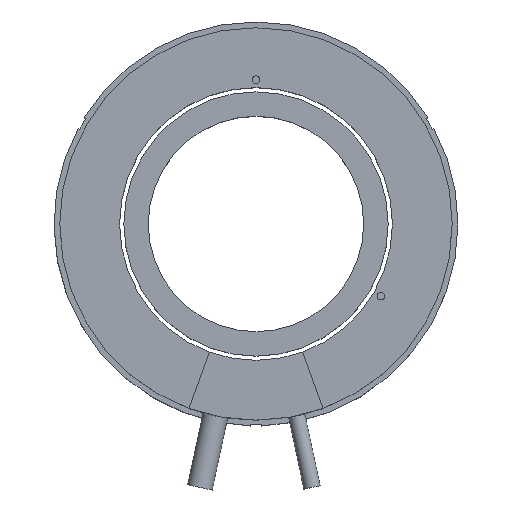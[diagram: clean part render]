
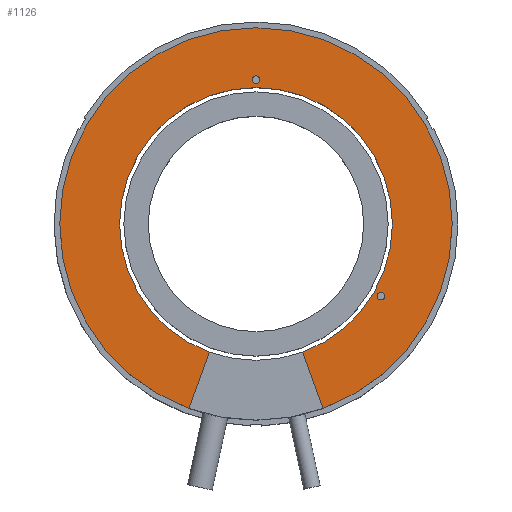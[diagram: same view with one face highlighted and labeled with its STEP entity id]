
A CAD part, top view. The second image highlights one B-rep face of the part: STEP entity #1126.
In plain terms, the highlighted planar face has unit normal (0, 0, 1).
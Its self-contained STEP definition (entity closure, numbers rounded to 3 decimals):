
#29 = ORIENTED_EDGE ( 'NONE', *, *, #387, .T. ) ;
#53 = DIRECTION ( 'NONE',  ( 1., 0., 0. ) ) ;
#61 = CIRCLE ( 'NONE', #185, 35.45 ) ;
#66 = CARTESIAN_POINT ( 'NONE',  ( 1., 37.5, 25. ) ) ;
#80 = CARTESIAN_POINT ( 'NONE',  ( 0., 0., 25. ) ) ;
#87 = AXIS2_PLACEMENT_3D ( 'NONE', #284, #1099, #1207 ) ;
#109 = VECTOR ( 'NONE', #1037, 1000. ) ;
#116 = FACE_BOUND ( 'NONE', #430, .T. ) ;
#122 = CIRCLE ( 'NONE', #467, 35.45 ) ;
#127 = EDGE_LOOP ( 'NONE', ( #404, #1021, #29, #930, #372, #364, #386, #1190 ) ) ;
#140 = VERTEX_POINT ( 'NONE', #1399 ) ;
#149 = CARTESIAN_POINT ( 'NONE',  ( -12.125, -33.312, 25. ) ) ;
#150 = DIRECTION ( 'NONE',  ( 1., 0., 0. ) ) ;
#157 = CARTESIAN_POINT ( 'NONE',  ( 31.476, -18.75, 25. ) ) ;
#159 = DIRECTION ( 'NONE',  ( 1., 0., 0. ) ) ;
#185 = AXIS2_PLACEMENT_3D ( 'NONE', #1370, #802, #689 ) ;
#189 = EDGE_CURVE ( 'NONE', #625, #1329, #244, .T. ) ;
#205 = EDGE_CURVE ( 'NONE', #516, #334, #947, .T. ) ;
#244 = CIRCLE ( 'NONE', #586, 51. ) ;
#273 = ORIENTED_EDGE ( 'NONE', *, *, #409, .F. ) ;
#284 = CARTESIAN_POINT ( 'NONE',  ( 0., 0., 25. ) ) ;
#288 = DIRECTION ( 'NONE',  ( 1., 0., 0. ) ) ;
#327 = EDGE_CURVE ( 'NONE', #686, #140, #444, .T. ) ;
#334 = VERTEX_POINT ( 'NONE', #975 ) ;
#350 = CARTESIAN_POINT ( 'NONE',  ( 35.45, 0., 25. ) ) ;
#360 = CARTESIAN_POINT ( 'NONE',  ( 12.125, -33.312, 25. ) ) ;
#362 = EDGE_CURVE ( 'NONE', #784, #948, #122, .T. ) ;
#364 = ORIENTED_EDGE ( 'NONE', *, *, #932, .F. ) ;
#368 = DIRECTION ( 'NONE',  ( 0., 0., 1. ) ) ;
#372 = ORIENTED_EDGE ( 'NONE', *, *, #1294, .F. ) ;
#386 = ORIENTED_EDGE ( 'NONE', *, *, #362, .F. ) ;
#387 = EDGE_CURVE ( 'NONE', #140, #625, #928, .T. ) ;
#404 = ORIENTED_EDGE ( 'NONE', *, *, #1055, .F. ) ;
#409 = EDGE_CURVE ( 'NONE', #1300, #912, #969, .T. ) ;
#430 = EDGE_LOOP ( 'NONE', ( #1448, #273 ) ) ;
#433 = EDGE_LOOP ( 'NONE', ( #570, #1485 ) ) ;
#436 = DIRECTION ( 'NONE',  ( 1., 0., 0. ) ) ;
#444 = CIRCLE ( 'NONE', #1416, 51. ) ;
#457 = CARTESIAN_POINT ( 'NONE',  ( 12.125, -33.312, 25. ) ) ;
#460 = CARTESIAN_POINT ( 'NONE',  ( 32.476, -18.75, 25. ) ) ;
#462 = VERTEX_POINT ( 'NONE', #544 ) ;
#467 = AXIS2_PLACEMENT_3D ( 'NONE', #1100, #990, #53 ) ;
#480 = DIRECTION ( 'NONE',  ( 1., 0., 0. ) ) ;
#487 = LINE ( 'NONE', #149, #798 ) ;
#516 = VERTEX_POINT ( 'NONE', #66 ) ;
#524 = CARTESIAN_POINT ( 'NONE',  ( 0., 37.5, 25. ) ) ;
#544 = CARTESIAN_POINT ( 'NONE',  ( -12.125, -33.312, 25. ) ) ;
#548 = DIRECTION ( 'NONE',  ( 1., 0., 0. ) ) ;
#551 = CARTESIAN_POINT ( 'NONE',  ( 35.45, 0., 25. ) ) ;
#570 = ORIENTED_EDGE ( 'NONE', *, *, #205, .F. ) ;
#586 = AXIS2_PLACEMENT_3D ( 'NONE', #1193, #1493, #708 ) ;
#601 = EDGE_CURVE ( 'NONE', #912, #1300, #1097, .T. ) ;
#618 = DIRECTION ( 'NONE',  ( 0., 0., 1. ) ) ;
#625 = VERTEX_POINT ( 'NONE', #1179 ) ;
#645 = CARTESIAN_POINT ( 'NONE',  ( -17.443, -47.924, 25. ) ) ;
#669 = CARTESIAN_POINT ( 'NONE',  ( 32.476, -18.75, 25. ) ) ;
#686 = VERTEX_POINT ( 'NONE', #847 ) ;
#689 = DIRECTION ( 'NONE',  ( 1., 0., 0. ) ) ;
#703 = DIRECTION ( 'NONE',  ( 1., 0., 0. ) ) ;
#708 = DIRECTION ( 'NONE',  ( 1., 0., 0. ) ) ;
#734 = DIRECTION ( 'NONE',  ( 0., 0., 1. ) ) ;
#768 = CIRCLE ( 'NONE', #983, 1. ) ;
#784 = VERTEX_POINT ( 'NONE', #551 ) ;
#798 = VECTOR ( 'NONE', #1070, 1000. ) ;
#802 = DIRECTION ( 'NONE',  ( 0., 0., 1. ) ) ;
#809 = AXIS2_PLACEMENT_3D ( 'NONE', #80, #1006, #548 ) ;
#818 = CIRCLE ( 'NONE', #87, 35.45 ) ;
#847 = CARTESIAN_POINT ( 'NONE',  ( 17.443, -47.924, 25. ) ) ;
#876 = DIRECTION ( 'NONE',  ( 0., 0., 1. ) ) ;
#912 = VERTEX_POINT ( 'NONE', #1254 ) ;
#923 = DIRECTION ( 'NONE',  ( 0., 0., 1. ) ) ;
#928 = CIRCLE ( 'NONE', #809, 51. ) ;
#930 = ORIENTED_EDGE ( 'NONE', *, *, #189, .T. ) ;
#932 = EDGE_CURVE ( 'NONE', #948, #462, #61, .T. ) ;
#933 = FACE_OUTER_BOUND ( 'NONE', #127, .T. ) ;
#947 = CIRCLE ( 'NONE', #1095, 1. ) ;
#948 = VERTEX_POINT ( 'NONE', #1248 ) ;
#969 = CIRCLE ( 'NONE', #1165, 1. ) ;
#975 = CARTESIAN_POINT ( 'NONE',  ( -1., 37.5, 25. ) ) ;
#983 = AXIS2_PLACEMENT_3D ( 'NONE', #524, #1409, #288 ) ;
#990 = DIRECTION ( 'NONE',  ( 0., 0., 1. ) ) ;
#1006 = DIRECTION ( 'NONE',  ( 0., 0., 1. ) ) ;
#1021 = ORIENTED_EDGE ( 'NONE', *, *, #327, .T. ) ;
#1037 = DIRECTION ( 'NONE',  ( -0.342, 0.94, 0. ) ) ;
#1043 = FACE_BOUND ( 'NONE', #433, .T. ) ;
#1055 = EDGE_CURVE ( 'NONE', #686, #1143, #1270, .T. ) ;
#1056 = PLANE ( 'NONE',  #1132 ) ;
#1070 = DIRECTION ( 'NONE',  ( -0.342, -0.94, 0. ) ) ;
#1095 = AXIS2_PLACEMENT_3D ( 'NONE', #1171, #734, #150 ) ;
#1097 = CIRCLE ( 'NONE', #1166, 1. ) ;
#1099 = DIRECTION ( 'NONE',  ( 0., 0., 1. ) ) ;
#1100 = CARTESIAN_POINT ( 'NONE',  ( 0., 0., 25. ) ) ;
#1126 = ADVANCED_FACE ( 'NONE', ( #116, #1043, #933 ), #1056, .T. ) ;
#1132 = AXIS2_PLACEMENT_3D ( 'NONE', #350, #368, #480 ) ;
#1143 = VERTEX_POINT ( 'NONE', #457 ) ;
#1165 = AXIS2_PLACEMENT_3D ( 'NONE', #669, #876, #436 ) ;
#1166 = AXIS2_PLACEMENT_3D ( 'NONE', #460, #923, #703 ) ;
#1171 = CARTESIAN_POINT ( 'NONE',  ( 0., 37.5, 25. ) ) ;
#1179 = CARTESIAN_POINT ( 'NONE',  ( -51., 0., 25. ) ) ;
#1190 = ORIENTED_EDGE ( 'NONE', *, *, #1231, .F. ) ;
#1193 = CARTESIAN_POINT ( 'NONE',  ( 0., 0., 25. ) ) ;
#1207 = DIRECTION ( 'NONE',  ( 1., 0., 0. ) ) ;
#1230 = CARTESIAN_POINT ( 'NONE',  ( 0., 0., 25. ) ) ;
#1231 = EDGE_CURVE ( 'NONE', #1143, #784, #818, .T. ) ;
#1248 = CARTESIAN_POINT ( 'NONE',  ( -35.45, 0., 25. ) ) ;
#1254 = CARTESIAN_POINT ( 'NONE',  ( 33.476, -18.75, 25. ) ) ;
#1270 = LINE ( 'NONE', #360, #109 ) ;
#1294 = EDGE_CURVE ( 'NONE', #462, #1329, #487, .T. ) ;
#1300 = VERTEX_POINT ( 'NONE', #157 ) ;
#1329 = VERTEX_POINT ( 'NONE', #645 ) ;
#1344 = EDGE_CURVE ( 'NONE', #334, #516, #768, .T. ) ;
#1370 = CARTESIAN_POINT ( 'NONE',  ( 0., 0., 25. ) ) ;
#1399 = CARTESIAN_POINT ( 'NONE',  ( 51., 0., 25. ) ) ;
#1409 = DIRECTION ( 'NONE',  ( 0., 0., 1. ) ) ;
#1416 = AXIS2_PLACEMENT_3D ( 'NONE', #1230, #618, #159 ) ;
#1448 = ORIENTED_EDGE ( 'NONE', *, *, #601, .F. ) ;
#1485 = ORIENTED_EDGE ( 'NONE', *, *, #1344, .F. ) ;
#1493 = DIRECTION ( 'NONE',  ( 0., 0., 1. ) ) ;
